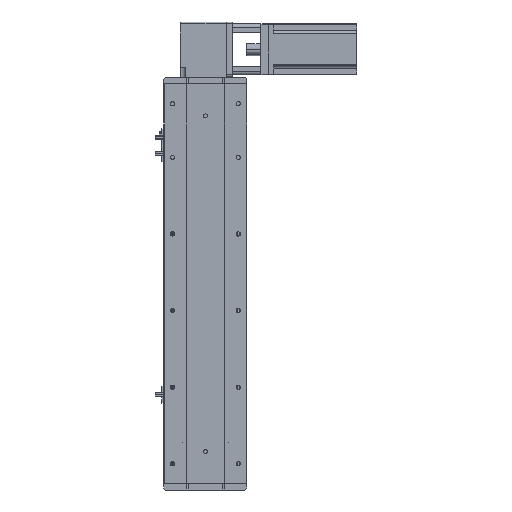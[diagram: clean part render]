
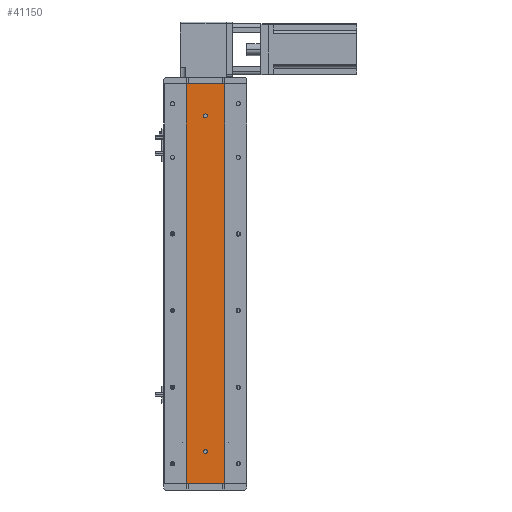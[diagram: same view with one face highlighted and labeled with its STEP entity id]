
A CAD part, left-side view. The second image highlights one B-rep face of the part: STEP entity #41150.
In plain terms, the highlighted planar face has unit normal (-1, 0, 0).
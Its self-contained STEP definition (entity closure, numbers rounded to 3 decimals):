
#1217 = EDGE_CURVE ( 'NONE', #28363, #37173, #24486, .T. ) ;
#1248 = EDGE_CURVE ( 'NONE', #37173, #28363, #42065, .T. ) ;
#2505 = CARTESIAN_POINT ( 'NONE',  ( -24.994, 0., 50. ) ) ;
#2513 = VECTOR ( 'NONE', #21553, 1000. ) ;
#2515 = CIRCLE ( 'NONE', #14842, 3. ) ;
#3395 = VECTOR ( 'NONE', #31428, 1000. ) ;
#4607 = CARTESIAN_POINT ( 'NONE',  ( -24.994, 29.785, 626. ) ) ;
#5854 = DIRECTION ( 'NONE',  ( -1., 0., 0. ) ) ;
#6073 = DIRECTION ( 'NONE',  ( 0., 0., 1. ) ) ;
#6324 = DIRECTION ( 'NONE',  ( 0., -1., 0. ) ) ;
#6921 = CARTESIAN_POINT ( 'NONE',  ( -24.994, 0., 47. ) ) ;
#7005 = AXIS2_PLACEMENT_3D ( 'NONE', #30893, #9764, #34421 ) ;
#7407 = EDGE_CURVE ( 'NONE', #16541, #30957, #40869, .T. ) ;
#8792 = VERTEX_POINT ( 'NONE', #45404 ) ;
#9183 = CARTESIAN_POINT ( 'NONE',  ( -24.994, 0., 579. ) ) ;
#9458 = VERTEX_POINT ( 'NONE', #4607 ) ;
#9675 = ORIENTED_EDGE ( 'NONE', *, *, #41358, .T. ) ;
#9764 = DIRECTION ( 'NONE',  ( -1., 0., 0. ) ) ;
#10409 = LINE ( 'NONE', #31008, #37416 ) ;
#11231 = CARTESIAN_POINT ( 'NONE',  ( -24.994, -29.785, 0. ) ) ;
#13257 = PLANE ( 'NONE',  #20309 ) ;
#13402 = CARTESIAN_POINT ( 'NONE',  ( -24.994, 29.785, 626. ) ) ;
#13979 = CARTESIAN_POINT ( 'NONE',  ( -24.994, 29.785, 0. ) ) ;
#14842 = AXIS2_PLACEMENT_3D ( 'NONE', #20749, #45314, #24299 ) ;
#15408 = EDGE_CURVE ( 'NONE', #29622, #8792, #2515, .T. ) ;
#16541 = VERTEX_POINT ( 'NONE', #17678 ) ;
#16896 = DIRECTION ( 'NONE',  ( 0., 0., -1. ) ) ;
#17678 = CARTESIAN_POINT ( 'NONE',  ( -24.994, 29.785, 0. ) ) ;
#17894 = CARTESIAN_POINT ( 'NONE',  ( -24.994, 0., 53. ) ) ;
#17907 = ORIENTED_EDGE ( 'NONE', *, *, #15408, .F. ) ;
#17984 = FACE_BOUND ( 'NONE', #24593, .T. ) ;
#19090 = VERTEX_POINT ( 'NONE', #40985 ) ;
#20309 = AXIS2_PLACEMENT_3D ( 'NONE', #13402, #38056, #16896 ) ;
#20398 = EDGE_LOOP ( 'NONE', ( #17907, #40404 ) ) ;
#20749 = CARTESIAN_POINT ( 'NONE',  ( -24.994, 0., 576. ) ) ;
#21553 = DIRECTION ( 'NONE',  ( 0., 0., -1. ) ) ;
#24012 = EDGE_CURVE ( 'NONE', #8792, #29622, #42878, .T. ) ;
#24299 = DIRECTION ( 'NONE',  ( 0., 0., 1. ) ) ;
#24486 = CIRCLE ( 'NONE', #45574, 3. ) ;
#24593 = EDGE_LOOP ( 'NONE', ( #44110, #39926 ) ) ;
#26952 = CARTESIAN_POINT ( 'NONE',  ( -24.994, 0., 576. ) ) ;
#27168 = DIRECTION ( 'NONE',  ( -1., 0., 0. ) ) ;
#28363 = VERTEX_POINT ( 'NONE', #17894 ) ;
#28509 = EDGE_LOOP ( 'NONE', ( #45158, #34567, #43583, #9675 ) ) ;
#29590 = LINE ( 'NONE', #42599, #2513 ) ;
#29622 = VERTEX_POINT ( 'NONE', #9183 ) ;
#30540 = DIRECTION ( 'NONE',  ( 0., 0., 1. ) ) ;
#30893 = CARTESIAN_POINT ( 'NONE',  ( -24.994, 0., 50. ) ) ;
#30957 = VERTEX_POINT ( 'NONE', #11231 ) ;
#31008 = CARTESIAN_POINT ( 'NONE',  ( -24.994, 29.785, 626. ) ) ;
#31428 = DIRECTION ( 'NONE',  ( 0., -1., 0. ) ) ;
#33724 = DIRECTION ( 'NONE',  ( 0., 0., -1. ) ) ;
#34421 = DIRECTION ( 'NONE',  ( 0., 0., 1. ) ) ;
#34567 = ORIENTED_EDGE ( 'NONE', *, *, #37566, .F. ) ;
#36068 = VECTOR ( 'NONE', #33724, 1000. ) ;
#36756 = FACE_BOUND ( 'NONE', #20398, .T. ) ;
#37173 = VERTEX_POINT ( 'NONE', #6921 ) ;
#37416 = VECTOR ( 'NONE', #6324, 1000. ) ;
#37566 = EDGE_CURVE ( 'NONE', #19090, #30957, #45348, .T. ) ;
#38056 = DIRECTION ( 'NONE',  ( 1., 0., 0. ) ) ;
#39745 = AXIS2_PLACEMENT_3D ( 'NONE', #26952, #5854, #30540 ) ;
#39926 = ORIENTED_EDGE ( 'NONE', *, *, #1248, .F. ) ;
#40043 = FACE_OUTER_BOUND ( 'NONE', #28509, .T. ) ;
#40404 = ORIENTED_EDGE ( 'NONE', *, *, #24012, .F. ) ;
#40869 = LINE ( 'NONE', #13979, #3395 ) ;
#40985 = CARTESIAN_POINT ( 'NONE',  ( -24.994, -29.785, 626. ) ) ;
#41150 = ADVANCED_FACE ( 'NONE', ( #36756, #17984, #40043 ), #13257, .F. ) ;
#41358 = EDGE_CURVE ( 'NONE', #9458, #16541, #29590, .T. ) ;
#42065 = CIRCLE ( 'NONE', #7005, 3. ) ;
#42599 = CARTESIAN_POINT ( 'NONE',  ( -24.994, 29.785, 626. ) ) ;
#42878 = CIRCLE ( 'NONE', #39745, 3. ) ;
#43052 = EDGE_CURVE ( 'NONE', #9458, #19090, #10409, .T. ) ;
#43583 = ORIENTED_EDGE ( 'NONE', *, *, #43052, .F. ) ;
#44089 = CARTESIAN_POINT ( 'NONE',  ( -24.994, -29.785, 626. ) ) ;
#44110 = ORIENTED_EDGE ( 'NONE', *, *, #1217, .F. ) ;
#45158 = ORIENTED_EDGE ( 'NONE', *, *, #7407, .T. ) ;
#45314 = DIRECTION ( 'NONE',  ( -1., 0., 0. ) ) ;
#45348 = LINE ( 'NONE', #44089, #36068 ) ;
#45404 = CARTESIAN_POINT ( 'NONE',  ( -24.994, 0., 573. ) ) ;
#45574 = AXIS2_PLACEMENT_3D ( 'NONE', #2505, #27168, #6073 ) ;
